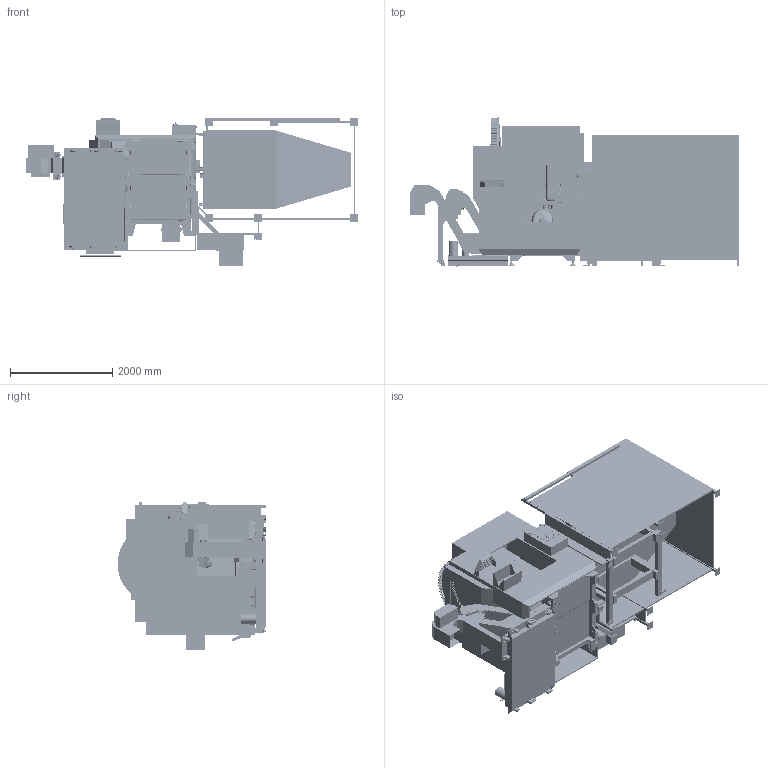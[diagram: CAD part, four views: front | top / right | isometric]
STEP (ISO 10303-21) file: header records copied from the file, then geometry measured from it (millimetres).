
FILE_DESCRIPTION (( 'STEP AP203' ), '1' );
FILE_NAME ('UMC 500 + APL _1_2025.STEP', '2025-01-24T23:29:22', ( '' ), ( '' ), 'SwSTEP 2.0', 'SolidWorks 2023', '' );
FILE_SCHEMA (( 'CONFIG_CONTROL_DESIGN' ));
Length unit declared in the file: inch
Products named in the file (31): UMC 500 +APL Enclosure; UMC 500- X Axis; UMC 500- Blank Platter; umc 500- Leveling Pads; UMC 500- Auto Window; UMC 500-T Slot Platter; UMC 500- 30 Pkt Tool Changer; UMC 500- Z Axis; UMC 500 +APL Table; UMC 500- Tooling Plate; UMC 500- Trunnion; UMC 500 +APL Main Body; UMC 500 +APL Clamping Legs; UMC 500- CDF Conveyor; UMC 500- Y Axis; UMC 500-Filter Conveyor; UMC 500- Belt Type Conveyor; UMC 500- Base Casting; UMC 500- Tool Changer Arm Up; umc 500- 55 gallon tank; UMC 500 +APL Fence; UMC 500- WIPS; UMC 500- Tool Changer Arm Down; UMC 500 +APL Junction Box; UMC 500- Control Panel; UMC 500- 70 Pkt Tool Changer; UMC 500 +APL AW-AU Axis Beam; UMC 500- 95 Gallon Tank; UMC 500- Anchor Pattern; UMC 500- 50 Pkt Tool Changer; UMC 500 + APL _1_2025
Assembly tree (30 placements, depth 2):
  UMC 500 + APL _1_2025
    UMC 500- Base Casting
    umc 500- Leveling Pads
    UMC 500- Anchor Pattern
    UMC 500- Trunnion
    UMC 500- Tooling Plate
    UMC 500- Blank Platter
    UMC 500-T Slot Platter
    UMC 500- WIPS
    UMC 500- X Axis
    UMC 500- Y Axis
    UMC 500- Z Axis
    UMC 500- Tool Changer Arm Down
    UMC 500- Auto Window
    UMC 500- Control Panel
    UMC 500- 30 Pkt Tool Changer
    UMC 500- 50 Pkt Tool Changer
    UMC 500- 70 Pkt Tool Changer
    umc 500- 55 gallon tank
    UMC 500- 95 Gallon Tank
    UMC 500- Belt Type Conveyor
    UMC 500- CDF Conveyor
    UMC 500-Filter Conveyor
    UMC 500 +APL Enclosure
    UMC 500 +APL Main Body
    UMC 500 +APL Junction Box
    UMC 500 +APL AW-AU Axis Beam
    UMC 500 +APL Clamping Legs
    UMC 500 +APL Fence
    UMC 500 +APL Table
    UMC 500- Tool Changer Arm Up
Bounding box: 6508.25 x 2918.97 x 2901.91 mm (x, y, z)
Volume: 5269036021.9 mm3; surface area: 219434970.4 mm2
Topology: 86 solids, 101 shells, 18706 faces, 49525 edges, 31768 vertices
Faces by surface type: plane 10622, cylinder 4991, cone 1343, bspline 1063, torus 502, sphere 185
Entity records: 643921 total; most frequent: CARTESIAN_POINT 184880, ORIENTED_EDGE 98646, DIRECTION 90911, EDGE_CURVE 49323, VERTEX_POINT 31764, AXIS2_PLACEMENT_3D 31099, LINE 28713, VECTOR 28713
